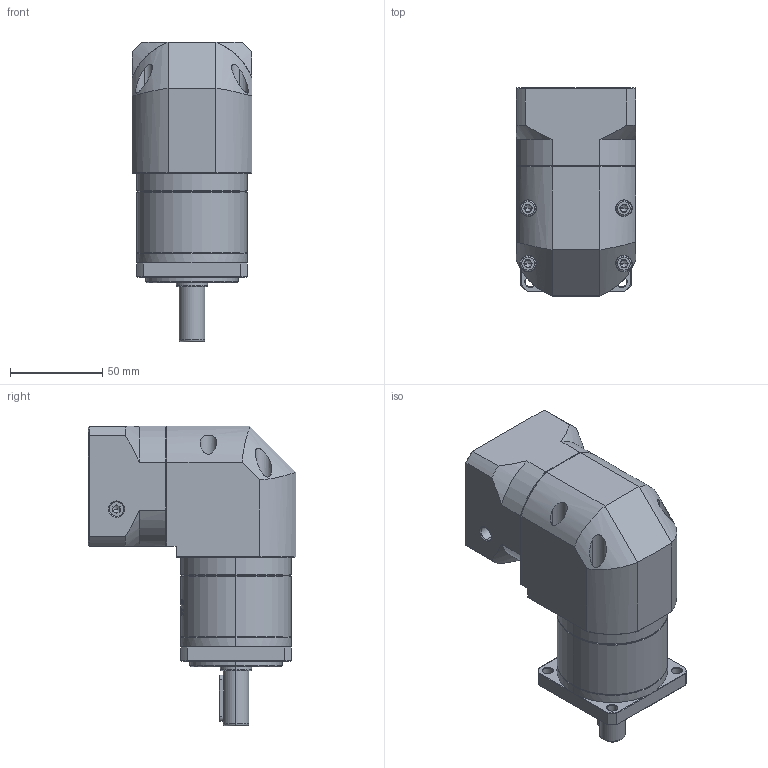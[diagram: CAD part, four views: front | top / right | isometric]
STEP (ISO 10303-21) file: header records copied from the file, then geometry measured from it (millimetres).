
FILE_DESCRIPTION (( 'STEP AP214' ), '1' );
FILE_NAME ('ZFR060-D14-L1-P2-11-60-75-M5.step', '2023-08-17T03:29:55', ( '' ), ( '' ), 'SwSTEP 2.0', 'SolidWorks 2016', '' );
FILE_SCHEMA (( 'AUTOMOTIVE_DESIGN' ));
Length unit declared in the file: millimetre
Products named in the file (1): ZFR060-D14-L1-P2-11-60-75-M5
Bounding box: 65 x 112.7 x 162.5 mm (x, y, z)
Volume: 552131.2 mm3; surface area: 79860.8 mm2
Topology: 5 solids, 6 shells, 1922 faces, 5125 edges, 3300 vertices
Faces by surface type: plane 847, cylinder 407, bspline 366, cone 288, torus 14
Entity records: 106732 total; most frequent: CARTESIAN_POINT 41976, ORIENTED_EDGE 10206, DIRECTION 7582, EDGE_CURVE 5103, VERTEX_POINT 3300, VECTOR 2612, LINE 2612, AXIS2_PLACEMENT_3D 2485
